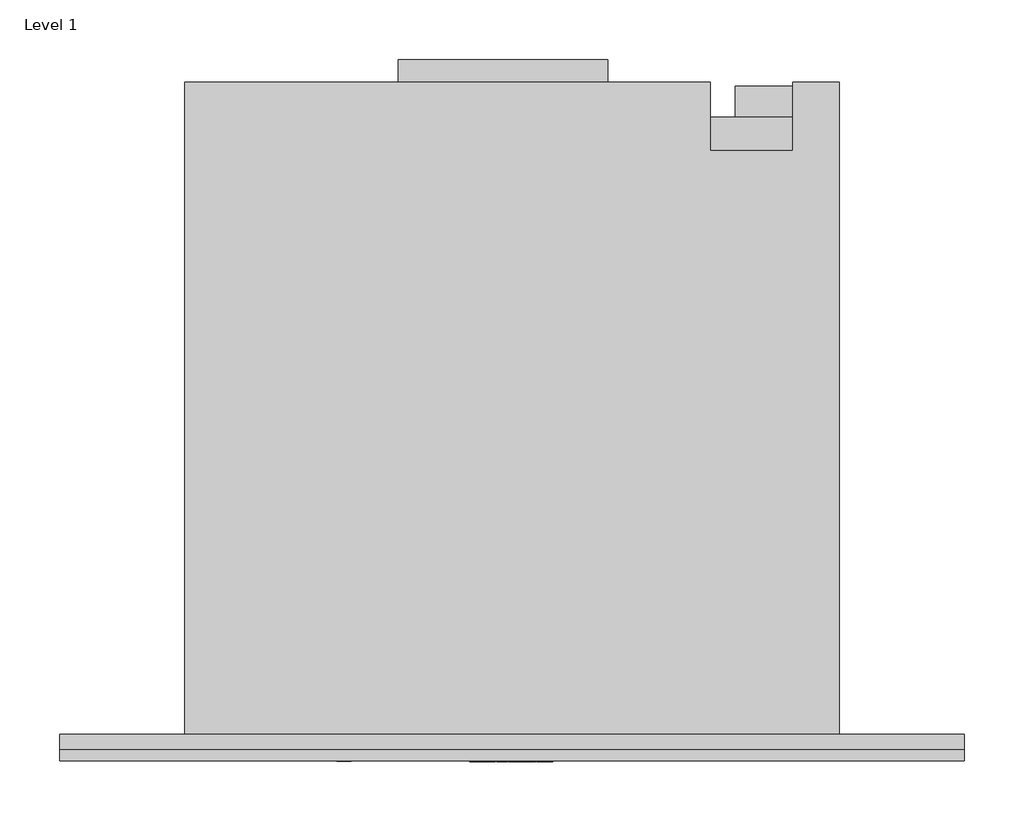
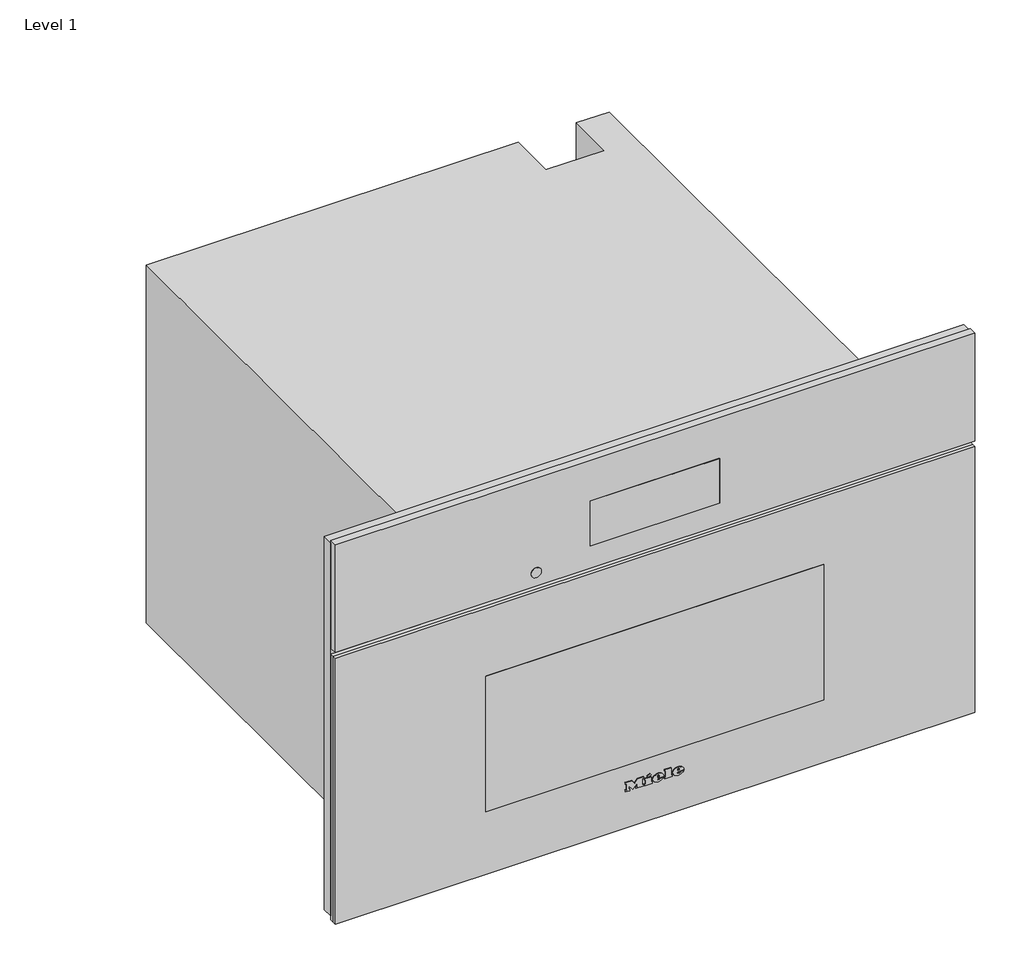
# One storey: 1 proxy.
"""IFC4 building model written with IfcOpenShell, lengths in millimetres."""

from ifc_helpers import new_model, si_unit, origin, place, context, project, spatial, transform, mapped, element, save
from components import specialty_equipment_b96cb7f9

model = new_model("IFC4")

# Units and contexts
model_context = context("Model", 3, world=origin())
ifc_project = project(units=[si_unit("LENGTHUNIT", "METRE", prefix="MILLI")], contexts=[model_context])

# Site, building, storey
site = spatial("IfcSite", under=ifc_project)
building = spatial("IfcBuilding", under=site)
storey = spatial("IfcBuildingStorey", under=building, Name="Level 1", Elevation=0.0)

# Proxy
placement = place(None, origin())
specialty_equipment_shape = specialty_equipment_b96cb7f9(model_context)
element("IfcBuildingElementProxy", 1, Name="11877030_USA_DGC7870X_GRGR : 23787072_USA_11877030_DGC7870X_GRGR", ObjectType="11877030_USA_DGC7870X_GRGR : 23787072_USA_11877030_DGC7870X_GRGR", at=placement, inside=storey, context=model_context, shape_type="MappedRepresentation", body=[
    mapped(specialty_equipment_shape, transform((0.0, 0.0, 0.0), x_axis=(1.0, 0.0, 0.0), y_axis=(0.0, 1.0, 0.0), z_axis=(0.0, 0.0, 1.0))),
])

save(model, "model.ifc")
